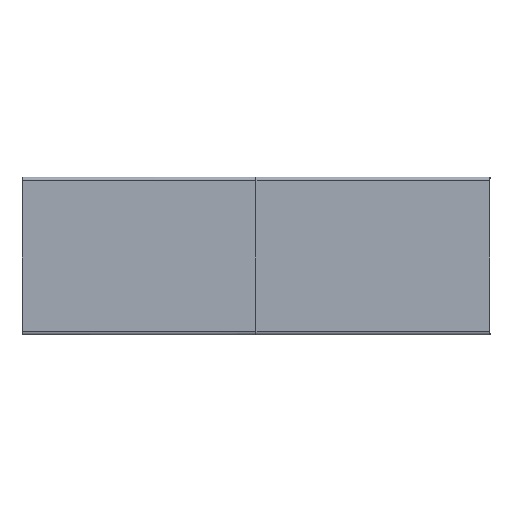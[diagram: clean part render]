
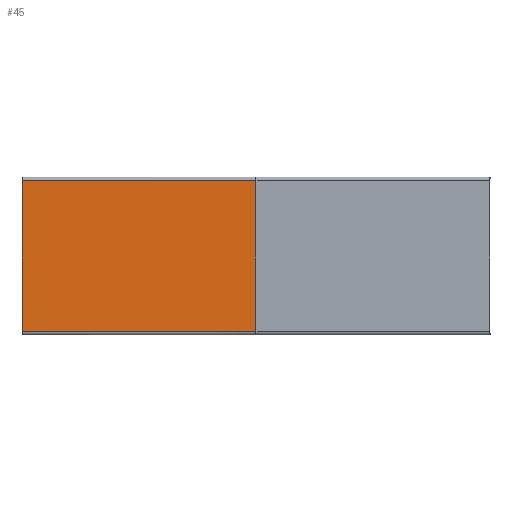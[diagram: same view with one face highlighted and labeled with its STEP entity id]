
A CAD part, top view. The second image highlights one B-rep face of the part: STEP entity #45.
In plain terms, the highlighted planar face has unit normal (0, 0, -1).
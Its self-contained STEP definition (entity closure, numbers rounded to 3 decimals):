
#45=ADVANCED_FACE('',(#94),#732,.T.);
#94=FACE_OUTER_BOUND('',#147,.T.);
#147=EDGE_LOOP('',(#273,#274,#275,#276));
#273=ORIENTED_EDGE('',*,*,#430,.F.);
#274=ORIENTED_EDGE('',*,*,#460,.T.);
#275=ORIENTED_EDGE('',*,*,#461,.T.);
#276=ORIENTED_EDGE('',*,*,#462,.T.);
#430=EDGE_CURVE('',#662,#661,#541,.T.);
#460=EDGE_CURVE('',#662,#677,#560,.T.);
#461=EDGE_CURVE('',#677,#678,#561,.T.);
#462=EDGE_CURVE('',#678,#661,#562,.T.);
#541=B_SPLINE_CURVE_WITH_KNOTS('',1,(#1213,#1214),.UNSPECIFIED.,.F.,.F.,
(2,2),(0.,400.),.UNSPECIFIED.);
#560=B_SPLINE_CURVE_WITH_KNOTS('',1,(#1301,#1302),.UNSPECIFIED.,.F.,.F.,
(2,2),(0.,258.),.UNSPECIFIED.);
#561=B_SPLINE_CURVE_WITH_KNOTS('',1,(#1303,#1304),.UNSPECIFIED.,.F.,.F.,
(2,2),(0.,400.),.UNSPECIFIED.);
#562=B_SPLINE_CURVE_WITH_KNOTS('',1,(#1305,#1306),.UNSPECIFIED.,.F.,.F.,
(2,2),(0.,258.),.UNSPECIFIED.);
#661=VERTEX_POINT('',#1107);
#662=VERTEX_POINT('',#1108);
#677=VERTEX_POINT('',#1123);
#678=VERTEX_POINT('',#1124);
#732=PLANE('',#865);
#865=AXIS2_PLACEMENT_3D('',#1009,#909,$);
#909=DIRECTION('',(0.,0.,-1.));
#1009=CARTESIAN_POINT('',(33.848,-160.523,16.));
#1107=CARTESIAN_POINT('',(-6.164,-134.711,16.));
#1108=CARTESIAN_POINT('',(-406.164,-134.711,16.));
#1123=CARTESIAN_POINT('',(-406.164,123.289,16.));
#1124=CARTESIAN_POINT('',(-6.164,123.289,16.));
#1213=CARTESIAN_POINT('',(-406.164,-134.711,16.));
#1214=CARTESIAN_POINT('',(-6.164,-134.711,16.));
#1301=CARTESIAN_POINT('',(-406.164,-134.711,16.));
#1302=CARTESIAN_POINT('',(-406.164,123.289,16.));
#1303=CARTESIAN_POINT('',(-406.164,123.289,16.));
#1304=CARTESIAN_POINT('',(-6.164,123.289,16.));
#1305=CARTESIAN_POINT('',(-6.164,123.289,16.));
#1306=CARTESIAN_POINT('',(-6.164,-134.711,16.));
